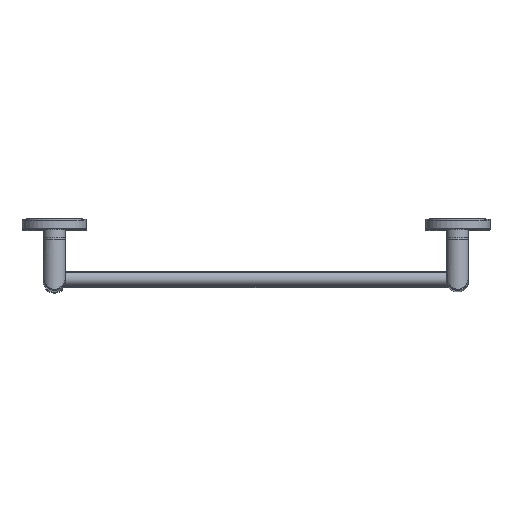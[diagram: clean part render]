
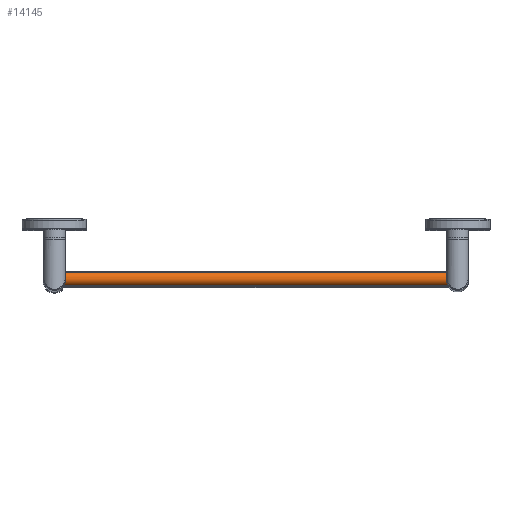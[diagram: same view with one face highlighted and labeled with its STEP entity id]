
A CAD part, top view. The second image highlights one B-rep face of the part: STEP entity #14145.
In plain terms, the highlighted cylindrical face has radius 10 mm (diameter 20 mm), a full revolution.
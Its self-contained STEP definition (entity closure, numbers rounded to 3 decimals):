
#387=CIRCLE('',#15056,10.);
#388=CIRCLE('',#15057,10.);
#3404=ORIENTED_EDGE('',*,*,#7172,.T.);
#3405=ORIENTED_EDGE('',*,*,#7173,.F.);
#7172=EDGE_CURVE('',#9107,#9107,#387,.T.);
#7173=EDGE_CURVE('',#9108,#9108,#388,.T.);
#9107=VERTEX_POINT('',#21559);
#9108=VERTEX_POINT('',#21561);
#10929=EDGE_LOOP('',(#3404));
#10930=EDGE_LOOP('',(#3405));
#11995=FACE_BOUND('',#10929,.T.);
#11996=FACE_BOUND('',#10930,.T.);
#12949=CYLINDRICAL_SURFACE('',#15055,10.);
#14145=ADVANCED_FACE('',(#11995,#11996),#12949,.T.);
#15055=AXIS2_PLACEMENT_3D('',#21557,#16692,#16693);
#15056=AXIS2_PLACEMENT_3D('',#21558,#16694,#16695);
#15057=AXIS2_PLACEMENT_3D('',#21560,#16696,#16697);
#16692=DIRECTION('',(-1.,0.,0.));
#16693=DIRECTION('',(0.,0.,1.));
#16694=DIRECTION('',(-1.,0.,0.));
#16695=DIRECTION('',(0.,1.,0.));
#16696=DIRECTION('',(-1.,0.,0.));
#16697=DIRECTION('',(0.,1.,0.));
#21557=CARTESIAN_POINT('',(274.,0.,0.));
#21558=CARTESIAN_POINT('',(274.,0.,0.));
#21559=CARTESIAN_POINT('',(274.,10.,0.));
#21560=CARTESIAN_POINT('',(-274.,0.,0.));
#21561=CARTESIAN_POINT('',(-274.,10.,0.));
